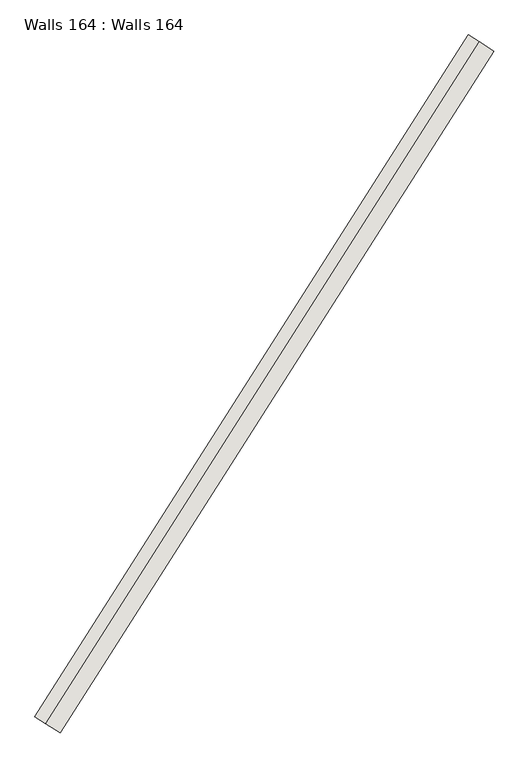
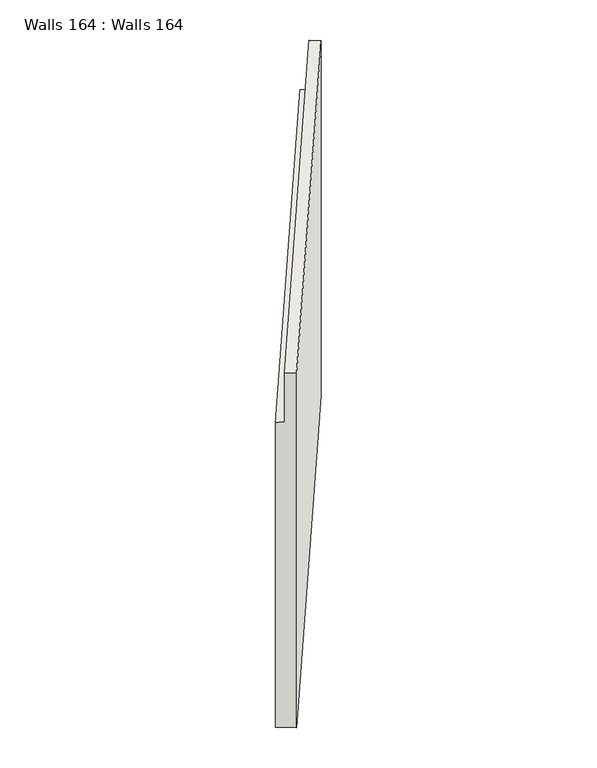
"""IFC4 building model written with IfcOpenShell, lengths in millimetres: wall geometry, Walls 164 : Walls 164."""

from ifc_helpers import new_model, si_unit, origin, place, context, project, spatial, faceted_brep, source, transform, mapped, element, save


def walls_164_walls_164_d9829eca(model_context):
    return source(origin(), model_context, "Body", "Brep", [
        faceted_brep([(199765.6379499, 138364.8636694, 642010.3478683), (200060.9112741, 138176.963757, 642010.3478683), (200060.9112741, 138176.963757, 649160.0467053), (199892.1830581, 138284.3355187, 649160.0467053), (199892.1830581, 138284.3355187, 648160.0467053), (199765.6379499, 138364.8636694, 648160.0467053), (204821.1609242, 146309.3116223, 642119.9197682), (204821.1609242, 146309.3116223, 648269.7103989), (204947.7060323, 146228.7834716, 648269.7103989), (204947.7060323, 146228.7834716, 649269.7103989), (205116.4342483, 146121.4117099, 649269.7103989), (205116.4342483, 146121.4117099, 642119.9197682)], [[[0, 1, 2, 3, 4, 5]], [[6, 7, 8, 9, 10, 11]], [[6, 11, 1, 0]], [[11, 10, 2, 1]], [[10, 9, 3, 2]], [[9, 8, 4, 3]], [[8, 7, 5, 4]], [[7, 6, 0, 5]]]),
    ])


if __name__ == "__main__":
    model = new_model("IFC4")
    model_context = context("Model", 3, world=origin())
    ifc_project = project(units=[si_unit("LENGTHUNIT", "METRE", prefix="MILLI")], contexts=[model_context])
    site = spatial("IfcSite", under=ifc_project)
    building = spatial("IfcBuilding", under=site)
    placement = place(None, origin())
    walls_164_walls_164_shape = walls_164_walls_164_d9829eca(model_context)
    element("IfcWall", 1, ObjectType="Walls 164 : Walls 164", at=placement, inside=building, context=model_context, shape_type="MappedRepresentation", body=[
        mapped(walls_164_walls_164_shape, transform((0.0, 0.0, 0.0), x_axis=(1.0, 0.0, 0.0), y_axis=(0.0, 1.0, 0.0), z_axis=(0.0, 0.0, 1.0))),
    ])
    save(model, "model.ifc")
